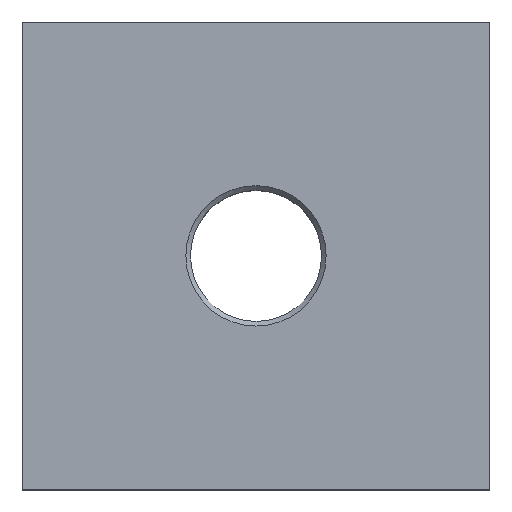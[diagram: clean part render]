
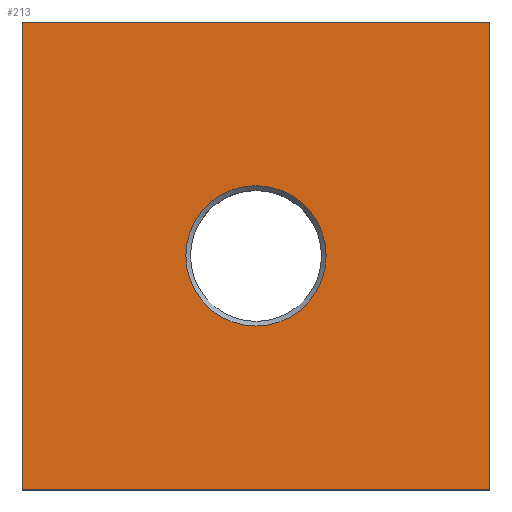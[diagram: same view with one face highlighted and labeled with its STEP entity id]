
A CAD part, top view. The second image highlights one B-rep face of the part: STEP entity #213.
In plain terms, the highlighted planar face has unit normal (0, 0, 1).
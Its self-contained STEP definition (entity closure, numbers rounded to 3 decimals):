
#24 = VERTEX_POINT('',#25);
#25 = CARTESIAN_POINT('',(-50.,-50.,30.));
#32 = PLANE('',#33);
#33 = AXIS2_PLACEMENT_3D('',#34,#35,#36);
#34 = CARTESIAN_POINT('',(-50.,-50.,0.));
#35 = DIRECTION('',(1.,0.,0.));
#36 = DIRECTION('',(0.,0.,1.));
#44 = PLANE('',#45);
#45 = AXIS2_PLACEMENT_3D('',#46,#47,#48);
#46 = CARTESIAN_POINT('',(-50.,-50.,0.));
#47 = DIRECTION('',(0.,1.,0.));
#48 = DIRECTION('',(0.,0.,1.));
#85 = VERTEX_POINT('',#86);
#86 = CARTESIAN_POINT('',(-50.,50.,30.));
#100 = PLANE('',#101);
#101 = AXIS2_PLACEMENT_3D('',#102,#103,#104);
#102 = CARTESIAN_POINT('',(-50.,50.,0.));
#103 = DIRECTION('',(0.,1.,0.));
#104 = DIRECTION('',(0.,0.,1.));
#112 = EDGE_CURVE('',#24,#85,#113,.T.);
#113 = SURFACE_CURVE('',#114,(#118,#125),.PCURVE_S1.);
#114 = LINE('',#115,#116);
#115 = CARTESIAN_POINT('',(-50.,-50.,30.));
#116 = VECTOR('',#117,1.);
#117 = DIRECTION('',(0.,1.,0.));
#118 = PCURVE('',#32,#119);
#119 = DEFINITIONAL_REPRESENTATION('',(#120),#124);
#120 = LINE('',#121,#122);
#121 = CARTESIAN_POINT('',(30.,0.));
#122 = VECTOR('',#123,1.);
#123 = DIRECTION('',(0.,-1.));
#124 = ( GEOMETRIC_REPRESENTATION_CONTEXT(2) 
PARAMETRIC_REPRESENTATION_CONTEXT() REPRESENTATION_CONTEXT('2D SPACE',''
  ) );
#125 = PCURVE('',#126,#131);
#126 = PLANE('',#127);
#127 = AXIS2_PLACEMENT_3D('',#128,#129,#130);
#128 = CARTESIAN_POINT('',(-50.,-50.,30.));
#129 = DIRECTION('',(0.,0.,1.));
#130 = DIRECTION('',(1.,0.,0.));
#131 = DEFINITIONAL_REPRESENTATION('',(#132),#136);
#132 = LINE('',#133,#134);
#133 = CARTESIAN_POINT('',(0.,0.));
#134 = VECTOR('',#135,1.);
#135 = DIRECTION('',(0.,1.));
#136 = ( GEOMETRIC_REPRESENTATION_CONTEXT(2) 
PARAMETRIC_REPRESENTATION_CONTEXT() REPRESENTATION_CONTEXT('2D SPACE',''
  ) );
#165 = EDGE_CURVE('',#24,#166,#168,.T.);
#166 = VERTEX_POINT('',#167);
#167 = CARTESIAN_POINT('',(50.,-50.,30.));
#168 = SURFACE_CURVE('',#169,(#173,#180),.PCURVE_S1.);
#169 = LINE('',#170,#171);
#170 = CARTESIAN_POINT('',(-50.,-50.,30.));
#171 = VECTOR('',#172,1.);
#172 = DIRECTION('',(1.,0.,0.));
#173 = PCURVE('',#44,#174);
#174 = DEFINITIONAL_REPRESENTATION('',(#175),#179);
#175 = LINE('',#176,#177);
#176 = CARTESIAN_POINT('',(30.,0.));
#177 = VECTOR('',#178,1.);
#178 = DIRECTION('',(0.,1.));
#179 = ( GEOMETRIC_REPRESENTATION_CONTEXT(2) 
PARAMETRIC_REPRESENTATION_CONTEXT() REPRESENTATION_CONTEXT('2D SPACE',''
  ) );
#180 = PCURVE('',#126,#181);
#181 = DEFINITIONAL_REPRESENTATION('',(#182),#186);
#182 = LINE('',#183,#184);
#183 = CARTESIAN_POINT('',(0.,0.));
#184 = VECTOR('',#185,1.);
#185 = DIRECTION('',(1.,0.));
#186 = ( GEOMETRIC_REPRESENTATION_CONTEXT(2) 
PARAMETRIC_REPRESENTATION_CONTEXT() REPRESENTATION_CONTEXT('2D SPACE',''
  ) );
#202 = PLANE('',#203);
#203 = AXIS2_PLACEMENT_3D('',#204,#205,#206);
#204 = CARTESIAN_POINT('',(50.,-50.,0.));
#205 = DIRECTION('',(1.,0.,0.));
#206 = DIRECTION('',(0.,0.,1.));
#213 = ADVANCED_FACE('',(#214,#262),#126,.T.);
#214 = FACE_BOUND('',#215,.T.);
#215 = EDGE_LOOP('',(#216,#217,#218,#241));
#216 = ORIENTED_EDGE('',*,*,#112,.F.);
#217 = ORIENTED_EDGE('',*,*,#165,.T.);
#218 = ORIENTED_EDGE('',*,*,#219,.T.);
#219 = EDGE_CURVE('',#166,#220,#222,.T.);
#220 = VERTEX_POINT('',#221);
#221 = CARTESIAN_POINT('',(50.,50.,30.));
#222 = SURFACE_CURVE('',#223,(#227,#234),.PCURVE_S1.);
#223 = LINE('',#224,#225);
#224 = CARTESIAN_POINT('',(50.,-50.,30.));
#225 = VECTOR('',#226,1.);
#226 = DIRECTION('',(0.,1.,0.));
#227 = PCURVE('',#126,#228);
#228 = DEFINITIONAL_REPRESENTATION('',(#229),#233);
#229 = LINE('',#230,#231);
#230 = CARTESIAN_POINT('',(100.,0.));
#231 = VECTOR('',#232,1.);
#232 = DIRECTION('',(0.,1.));
#233 = ( GEOMETRIC_REPRESENTATION_CONTEXT(2) 
PARAMETRIC_REPRESENTATION_CONTEXT() REPRESENTATION_CONTEXT('2D SPACE',''
  ) );
#234 = PCURVE('',#202,#235);
#235 = DEFINITIONAL_REPRESENTATION('',(#236),#240);
#236 = LINE('',#237,#238);
#237 = CARTESIAN_POINT('',(30.,0.));
#238 = VECTOR('',#239,1.);
#239 = DIRECTION('',(0.,-1.));
#240 = ( GEOMETRIC_REPRESENTATION_CONTEXT(2) 
PARAMETRIC_REPRESENTATION_CONTEXT() REPRESENTATION_CONTEXT('2D SPACE',''
  ) );
#241 = ORIENTED_EDGE('',*,*,#242,.F.);
#242 = EDGE_CURVE('',#85,#220,#243,.T.);
#243 = SURFACE_CURVE('',#244,(#248,#255),.PCURVE_S1.);
#244 = LINE('',#245,#246);
#245 = CARTESIAN_POINT('',(-50.,50.,30.));
#246 = VECTOR('',#247,1.);
#247 = DIRECTION('',(1.,0.,0.));
#248 = PCURVE('',#126,#249);
#249 = DEFINITIONAL_REPRESENTATION('',(#250),#254);
#250 = LINE('',#251,#252);
#251 = CARTESIAN_POINT('',(0.,100.));
#252 = VECTOR('',#253,1.);
#253 = DIRECTION('',(1.,0.));
#254 = ( GEOMETRIC_REPRESENTATION_CONTEXT(2) 
PARAMETRIC_REPRESENTATION_CONTEXT() REPRESENTATION_CONTEXT('2D SPACE',''
  ) );
#255 = PCURVE('',#100,#256);
#256 = DEFINITIONAL_REPRESENTATION('',(#257),#261);
#257 = LINE('',#258,#259);
#258 = CARTESIAN_POINT('',(30.,0.));
#259 = VECTOR('',#260,1.);
#260 = DIRECTION('',(0.,1.));
#261 = ( GEOMETRIC_REPRESENTATION_CONTEXT(2) 
PARAMETRIC_REPRESENTATION_CONTEXT() REPRESENTATION_CONTEXT('2D SPACE',''
  ) );
#262 = FACE_BOUND('',#263,.T.);
#263 = EDGE_LOOP('',(#264));
#264 = ORIENTED_EDGE('',*,*,#265,.F.);
#265 = EDGE_CURVE('',#266,#266,#268,.T.);
#266 = VERTEX_POINT('',#267);
#267 = CARTESIAN_POINT('',(15.,0.,30.));
#268 = SURFACE_CURVE('',#269,(#274,#281),.PCURVE_S1.);
#269 = CIRCLE('',#270,15.);
#270 = AXIS2_PLACEMENT_3D('',#271,#272,#273);
#271 = CARTESIAN_POINT('',(0.,0.,30.));
#272 = DIRECTION('',(0.,0.,1.));
#273 = DIRECTION('',(1.,0.,-0.));
#274 = PCURVE('',#126,#275);
#275 = DEFINITIONAL_REPRESENTATION('',(#276),#280);
#276 = CIRCLE('',#277,15.);
#277 = AXIS2_PLACEMENT_2D('',#278,#279);
#278 = CARTESIAN_POINT('',(50.,50.));
#279 = DIRECTION('',(1.,0.));
#280 = ( GEOMETRIC_REPRESENTATION_CONTEXT(2) 
PARAMETRIC_REPRESENTATION_CONTEXT() REPRESENTATION_CONTEXT('2D SPACE',''
  ) );
#281 = PCURVE('',#282,#287);
#282 = CONICAL_SURFACE('',#283,14.,0.785);
#283 = AXIS2_PLACEMENT_3D('',#284,#285,#286);
#284 = CARTESIAN_POINT('',(0.,0.,29.));
#285 = DIRECTION('',(0.,0.,1.));
#286 = DIRECTION('',(1.,0.,-0.));
#287 = DEFINITIONAL_REPRESENTATION('',(#288),#292);
#288 = LINE('',#289,#290);
#289 = CARTESIAN_POINT('',(0.,1.));
#290 = VECTOR('',#291,1.);
#291 = DIRECTION('',(1.,0.));
#292 = ( GEOMETRIC_REPRESENTATION_CONTEXT(2) 
PARAMETRIC_REPRESENTATION_CONTEXT() REPRESENTATION_CONTEXT('2D SPACE',''
  ) );
